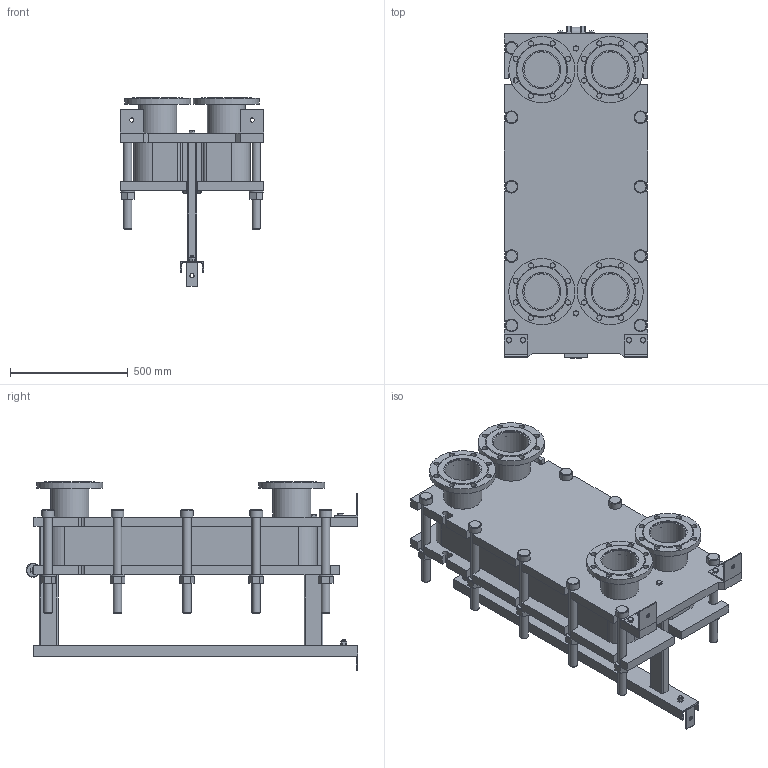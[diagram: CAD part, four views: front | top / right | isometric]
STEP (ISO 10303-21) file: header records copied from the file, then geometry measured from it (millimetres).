
FILE_DESCRIPTION(/* description */ (''),/* implementation_level */ '2;1');
FILE_NAME(/* name */ 'C:\Users\zhuro\Desktop\ENCO\TO\ЭН-041\ЭН-0,5-041-48-1.stp',/* time_stamp */ '2022-06-06T10:52:46+03:00',/* author */ ('zhuro'),/* organization */ (''),/* preprocessor_version */ 'ST-DEVELOPER v18.1',/* originating_system */ 'Autodesk Inventor 2022',/* authorisation */ '');
FILE_SCHEMA (('AUTOMOTIVE_DESIGN { 1 0 10303 214 3 1 1 }'));
Length unit declared in the file: millimetre
Products named in the file (1): ЭН-0,5-041-48-1
Bounding box: 610 x 1406.5 x 800 mm (x, y, z)
Volume: 169958592.2 mm3; surface area: 7877953.8 mm2
Topology: 52 solids, 52 shells, 711 faces, 1696 edges, 1094 vertices
Faces by surface type: plane 487, cylinder 177, cone 41, torus 6
Full cylindrical faces by diameter (mm): 8 x4, 10 x2, 16 x8, 18 x3, 22 x32, 36 x24, 50 x1, 54 x10, 60 x12, 151 x4, 161 x8, 280 x4
Entity records: 22667 total; most frequent: CARTESIAN_POINT 5230, DIRECTION 3644, ORIENTED_EDGE 3392, EDGE_CURVE 1696, AXIS2_PLACEMENT_3D 1272, LINE 1100, VECTOR 1100, VERTEX_POINT 1094
